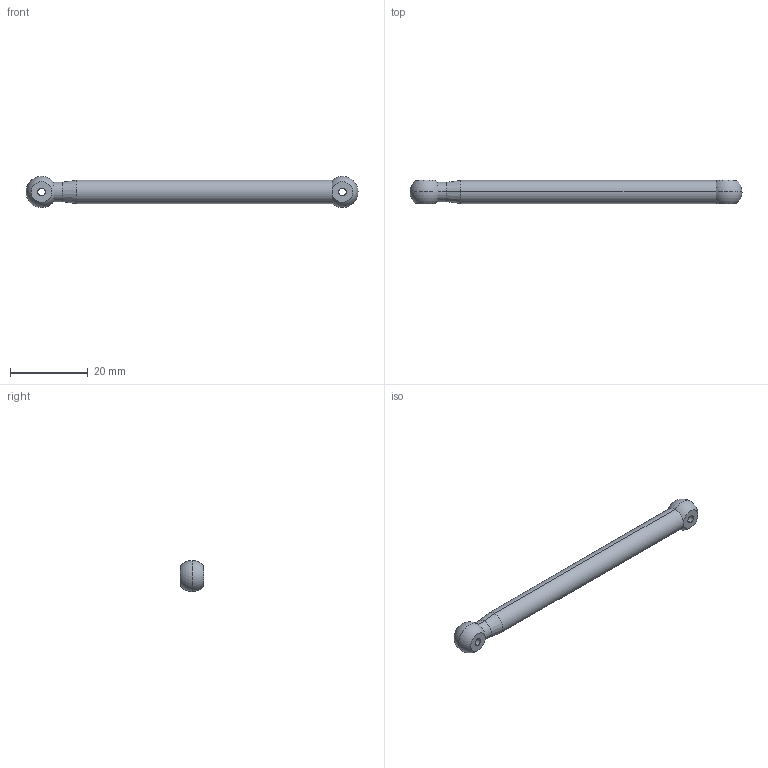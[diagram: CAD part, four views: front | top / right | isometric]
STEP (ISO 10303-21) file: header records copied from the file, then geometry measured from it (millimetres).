
FILE_DESCRIPTION (( 'STEP AP214' ), '1' );
FILE_NAME ('Ì44_ÏÌ_Âàë ïåðåäíèé.STEP', '2019-03-21T14:15:05', ( '' ), ( '' ), 'SwSTEP 2.0', 'SolidWorks 2018', '' );
FILE_SCHEMA (( 'AUTOMOTIVE_DESIGN' ));
Length unit declared in the file: millimetre
Products named in the file (1): Ì44_ÏÌ_Âàë ïåðåäíèé
Bounding box: 85.33 x 6 x 7.99 mm (x, y, z)
Volume: 2410.7 mm3; surface area: 1733 mm2
Topology: 1 solids, 1 shells, 18 faces, 43 edges, 27 vertices
Faces by surface type: cylinder 8, sphere 4, plane 4, cone 2
Entity records: 560 total; most frequent: DIRECTION 108, CARTESIAN_POINT 85, ORIENTED_EDGE 80, AXIS2_PLACEMENT_3D 49, EDGE_CURVE 40, CIRCLE 30, VERTEX_POINT 26, EDGE_LOOP 24
